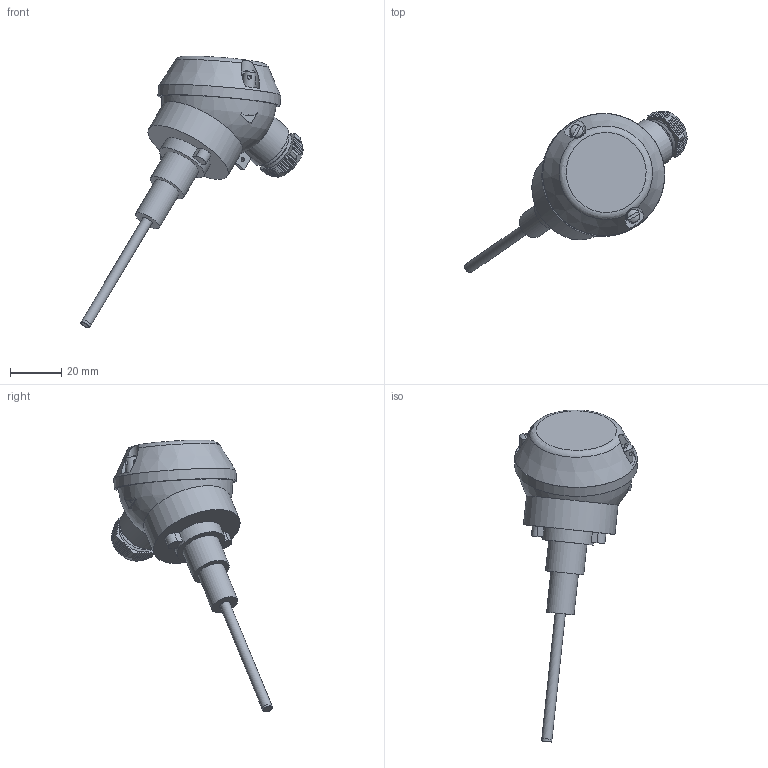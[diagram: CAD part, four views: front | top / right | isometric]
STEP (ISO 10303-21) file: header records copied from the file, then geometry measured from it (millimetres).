
FILE_DESCRIPTION(('STEP AP203'), '1');
FILE_NAME('òñï-í 5.0-50ìì(ñáîðêà)', '', ('UNSPECIFIED'), ('UNSPECIFIED'), 'ASCON STEP Converter 1.6', 'ASCON Math Kernel', '');
FILE_SCHEMA(('CONFIG_CONTROL_DESIGN'));
Length unit declared in the file: millimetre
Products named in the file (17): 栖闉罻; ﾘ琺矜 4; Ãàéêà Ì4; Êë êàëîäêà 731196-002; ﾘ琺矜 758480-006; Êîðïóñ 731196_Ïî óìîë÷àíèþ; Êîëüöî óïëîòíèòåëüíîå 754100-003_Ïî óìîë÷àíèþ; Âèíò Ì3-6; Âèíò 758410-005_Ïî óìîë÷àíèþ; Ïðîêëàäêà 754100_Ïî óìîë÷àíèþ; Êîðïóñ 723110-008-09_Ïî óìîë÷àíèþ; Çàãëóøêà 752513-004-01_Ïî óìîë÷àíèþ; Êðûøêà 753214_Ïî óìîë÷àíèþ; Ïåðåìû÷êà 758480-009; Âòóëêà ðåçüáîâàÿ 715341-002_Ïî óìîë÷àíèþ; Âèíò 715341-003_Ïî óìîë÷àíèþ
Assembly tree (40 placements, depth 3):
  栖闉罻
    ﾘ琺矜 4  x12
    Ãàéêà Ì4  x8
    Êë êàëîäêà 731196-002
    ﾘ琺矜 758480-006  x4
    Êîðïóñ 731196_Ïî óìîë÷àíèþ
    Êîëüöî óïëîòíèòåëüíîå 754100-003_Ïî óìîë÷àíèþ
    Âèíò Ì3-6  x2
    Âèíò 758410-005_Ïî óìîë÷àíèþ  x2
    Ïðîêëàäêà 754100_Ïî óìîë÷àíèþ
    Êîðïóñ 723110-008-09_Ïî óìîë÷àíèþ
      (unnamed)
      Çàãëóøêà 752513-004-01_Ïî óìîë÷àíèþ
    Êðûøêà 753214_Ïî óìîë÷àíèþ
    Ïåðåìû÷êà 758480-009  x2
    Âòóëêà ðåçüáîâàÿ 715341-002_Ïî óìîë÷àíèþ
    Âèíò 715341-003_Ïî óìîë÷àíèþ
Bounding box: 87.01 x 63.01 x 106.36 mm (x, y, z)
Volume: 40830.3 mm3; surface area: 33853.8 mm2
Topology: 39 solids, 39 shells, 821 faces, 2134 edges, 1416 vertices
Faces by surface type: plane 361, cylinder 305, cone 70, bspline 64, torus 19, sphere 2
Full cylindrical faces by diameter (mm): 1.6 x9, 2.46 x2, 2.5 x2, 3 x3, 3.4 x2, 3.5 x1, 4 x14, 4.2 x4, 4.3 x4, 4.5 x1, 5 x2, 5.2 x1, 6 x3, 7 x1, 8 x1, 9 x12, 10 x1, 10.8 x1, 14 x1, 15 x1, 19 x1, 20 x1, 31 x1, 33 x1, 35 x1, 36 x1, 45.5 x1, 46 x1, 48 x1
Entity records: 112943 total; most frequent: CARTESIAN_POINT 95135, ORIENTED_EDGE 2736, DIRECTION 2019, EDGE_CURVE 1368, VERTEX_POINT 950, AXIS2_PLACEMENT_3D 748, EDGE_LOOP 668, B_SPLINE_CURVE_WITH_KNOTS 593
